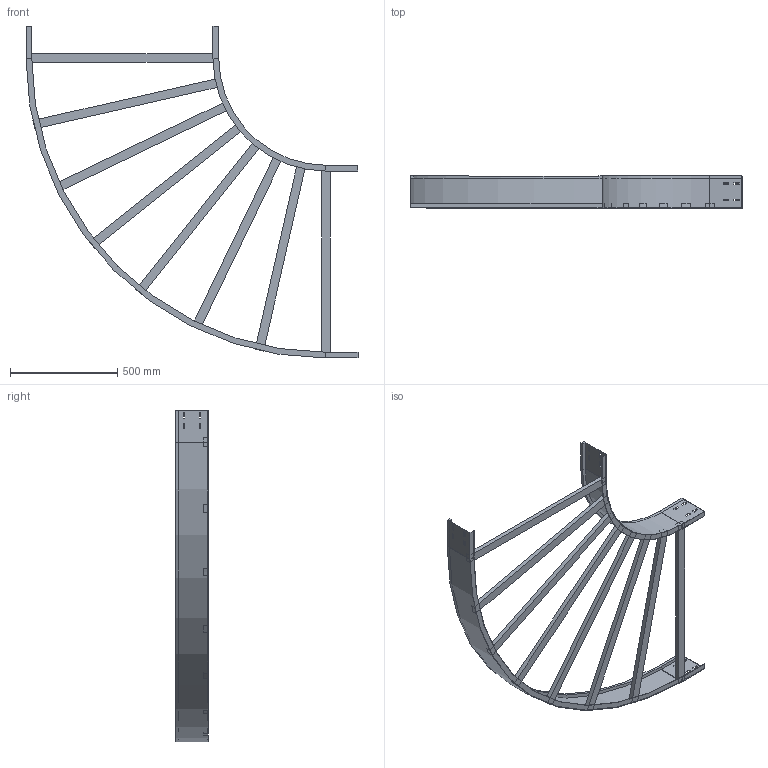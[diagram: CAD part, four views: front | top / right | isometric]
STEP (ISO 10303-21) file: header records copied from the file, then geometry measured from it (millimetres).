
FILE_DESCRIPTION (( 'STEP AP214' ), '1' );
FILE_NAME ('10J5F900.step', '2025-02-21T16:25:34', ( '' ), ( '' ), 'SwSTEP 2.0', 'SolidWorks 2023', '' );
FILE_SCHEMA (( 'AUTOMOTIVE_DESIGN' ));
Length unit declared in the file: millimetre
Products named in the file (4): LONGH.INTERNO 90°_H150_R500; 10J5F900; TRAVERSINO_900; LONGH.ESTERNO 90°_H150_R500+900
Assembly tree (10 placements, depth 2):
  10J5F900
    LONGH.INTERNO 90°_H150_R500
    LONGH.ESTERNO 90°_H150_R500+900
    TRAVERSINO_900  x8
Bounding box: 1550 x 150 x 1550 mm (x, y, z)
Volume: 7741686.1 mm3; surface area: 2261054 mm2
Topology: 10 solids, 10 shells, 164 faces, 400 edges, 256 vertices
Faces by surface type: plane 156, cylinder 8
Entity records: 3861 total; most frequent: CARTESIAN_POINT 651, ORIENTED_EDGE 632, DIRECTION 602, EDGE_CURVE 316, VECTOR 300, LINE 300, VERTEX_POINT 200, EDGE_LOOP 154
